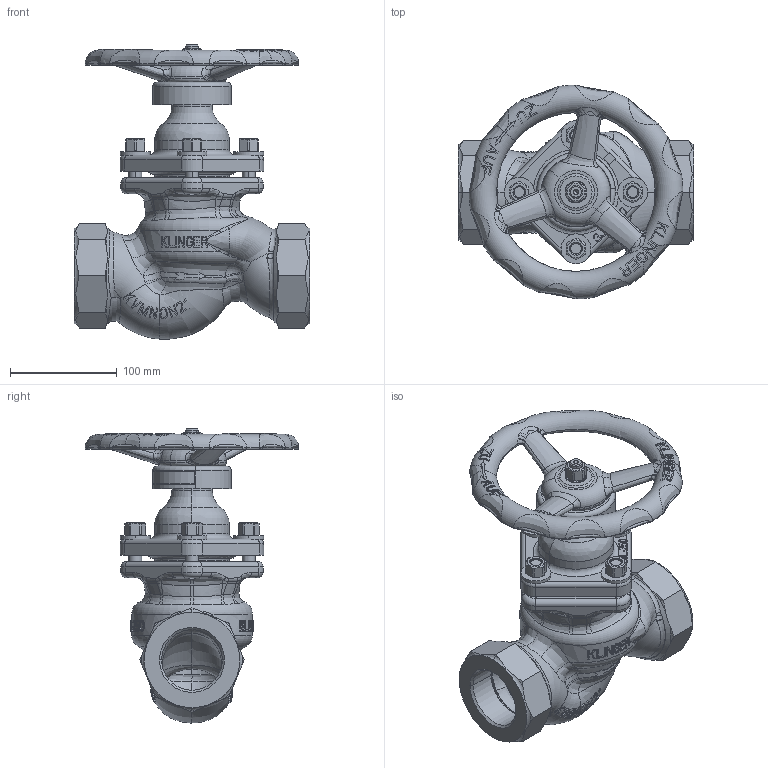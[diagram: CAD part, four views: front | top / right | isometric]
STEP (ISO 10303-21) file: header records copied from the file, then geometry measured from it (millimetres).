
FILE_DESCRIPTION((''),'2;1');
FILE_NAME('KVMN-G2-S-----P016DGG_SW0001','2015-07-09T',('jeitlers'),('RAND'),'PRO/ENGINEER BY PARAMETRIC TECHNOLOGY CORPORATION, 2013410','PRO/ENGINEER BY PARAMETRIC TECHNOLOGY CORPORATION, 2013410','');
FILE_SCHEMA(('CONFIG_CONTROL_DESIGN'));
Products named in the file (1): KVMN-G2-S-----P016DGG_SW0001
Bounding box: 220 x 199.99 x 275.1 mm (x, y, z)
Volume: 1567066.4 mm3; surface area: 341681.6 mm2
Topology: 3 solids, 3 shells, 2724 faces, 7333 edges, 4662 vertices
Faces by surface type: plane 1494, bspline 551, cylinder 345, torus 188, cone 141, sphere 4, extrusion 1
Entity records: 186673 total; most frequent: CARTESIAN_POINT 124907, ORIENTED_EDGE 14658, DIRECTION 10303, EDGE_CURVE 7329, VERTEX_POINT 4662, AXIS2_PLACEMENT_3D 3670, VECTOR 2963, LINE 2962
